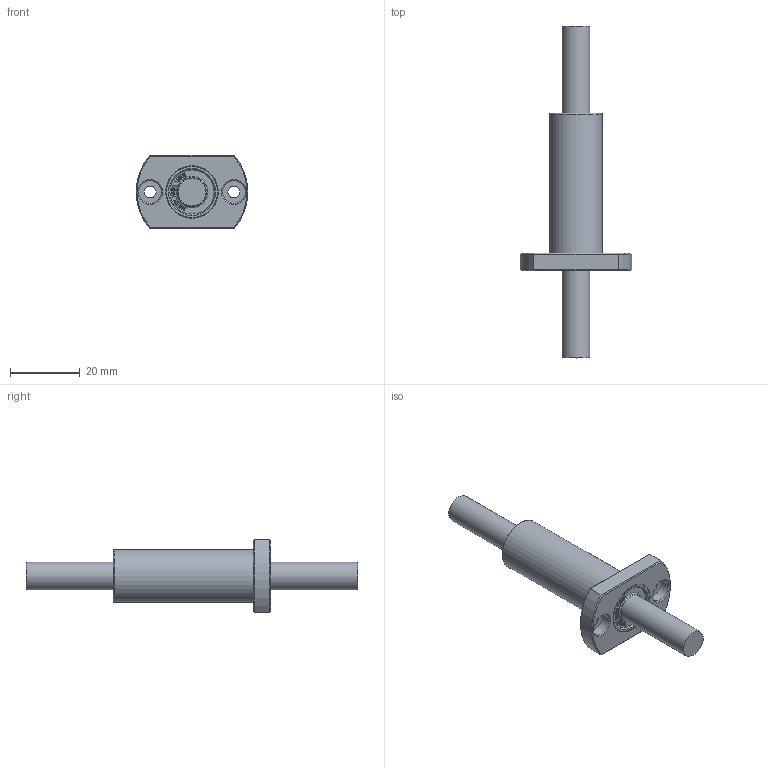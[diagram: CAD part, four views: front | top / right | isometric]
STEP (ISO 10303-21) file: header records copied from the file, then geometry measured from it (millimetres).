
FILE_DESCRIPTION(/* description */ (''),/* implementation_level */ '2;1');
FILE_NAME(/* name */ 'W:\(01) 2024년 홈페이지 CAD파일 최신화\LMH_L\IPT\LMH08LUU.stp',/* time_stamp */ '2025-01-23T10:14:34+09:00',/* author */ ('서우현'),/* organization */ (''),/* preprocessor_version */ 'ST-DEVELOPER v17.2',/* originating_system */ 'Autodesk Inventor 2019',/* authorisation */ '');
FILE_SCHEMA (('AP203_CONFIGURATION_CONTROLLED_3D_DESIGN_OF_MECHANICAL_PARTS_AND_ASSEMBLIES_MIM_LF { 1 0 10303 203 3 1 4 }','AUTOMOTIVE_DESIGN { 1 0 10303 214 3 1 1 }'));
Length unit declared in the file: millimetre
Products named in the file (1): LM5
Bounding box: 31.9 x 95 x 21 mm (x, y, z)
Volume: 12321.6 mm3; surface area: 5029.3 mm2
Topology: 1 solids, 1 shells, 830 faces, 2330 edges, 1556 vertices
Faces by surface type: bspline 580, plane 224, cone 12, cylinder 12, torus 2
Full cylindrical faces by diameter (mm): 3.4 x2, 6.5 x2, 8 x2, 12.6 x2, 15 x2
Entity records: 28228 total; most frequent: CARTESIAN_POINT 9953, ORIENTED_EDGE 4660, EDGE_CURVE 2330, DIRECTION 1730, VERTEX_POINT 1556, B_SPLINE_CURVE_WITH_KNOTS 1160, LINE 1096, VECTOR 1096
